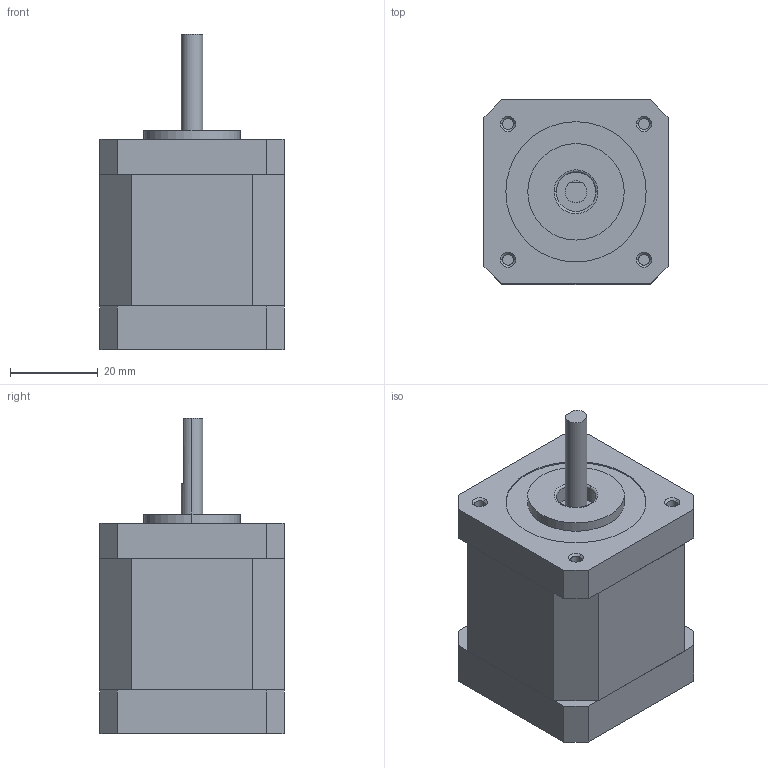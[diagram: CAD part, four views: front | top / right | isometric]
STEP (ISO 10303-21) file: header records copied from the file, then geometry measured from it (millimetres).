
FILE_DESCRIPTION (( 'STEP AP203' ), '1' );
FILE_NAME ('42CM06-K.STEP', '2021-04-25T01:18:41', ( 'Owner' ), ( 'Organization' ), 'SwSTEP 2.0', 'SolidWorks 2018', '' );
FILE_SCHEMA (( 'CONFIG_CONTROL_DESIGN' ));
Length unit declared in the file: millimetre
Products named in the file (1): 42CM06-K
Bounding box: 42.2 x 42.2 x 72 mm (x, y, z)
Volume: 81935.3 mm3; surface area: 12302.8 mm2
Topology: 1 solids, 1 shells, 204 faces, 513 edges, 329 vertices
Faces by surface type: plane 126, cylinder 56, torus 12, cone 10
Entity records: 6445 total; most frequent: CARTESIAN_POINT 1403, DIRECTION 1046, ORIENTED_EDGE 1026, EDGE_CURVE 513, AXIS2_PLACEMENT_3D 364, VERTEX_POINT 329, VECTOR 318, LINE 318
